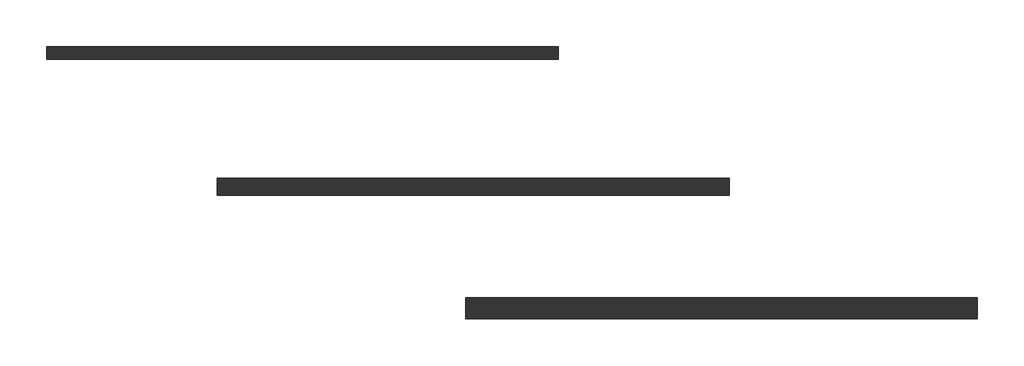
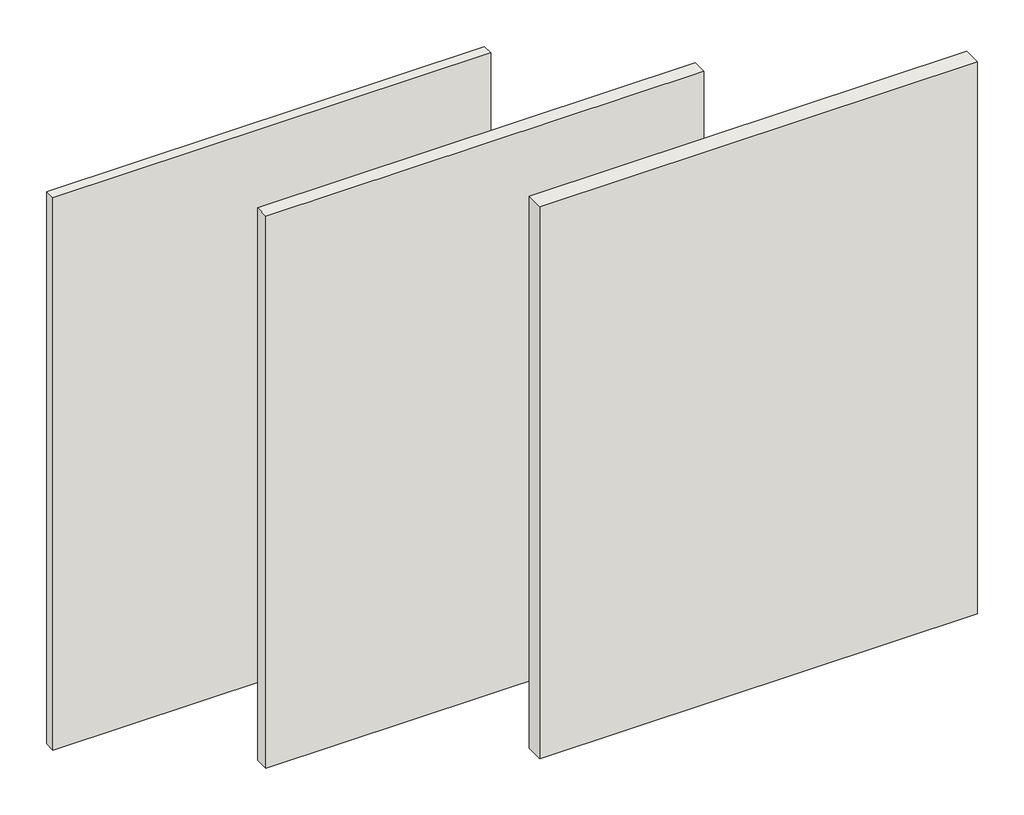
# One storey: 3 walls.
"""IFC4 building model written with IfcOpenShell, lengths in millimetres."""

import ifcopenshell
import ifcopenshell.guid

model = None  # the IFC model being written
_history = None  # IfcOwnerHistory: only IFC2X3 demands one
_inside = {}  # id of a spatial element -> (the spatial element, [elements in it])
_under = {}  # id of a project, library or spatial element -> (it, [spatial elements below it])
_declared = {}  # id of a project -> (the project, [libraries it declares])
_typed = {}  # id of a type object -> (the type object, [elements of that type])
_made_of = {}  # id of a material, layer set ... -> (it, [elements and type objects made of it])


def new_model(schema):
    """Start an empty IFC model of exactly this schema.

    Asked for "IFC4X3", IfcOpenShell would pick the latest addendum, in which some entities
    have other attributes; the version numbers below select the first issue.
    IFC2X3 requires an IfcOwnerHistory on every rooted entity: one is made here for all.
    """
    global model, _history
    if schema == "IFC4X3":
        model = ifcopenshell.file(schema_version=(4, 3, 0, 0))
    else:
        model = ifcopenshell.file(schema=schema)
    _inside.clear()
    _under.clear()
    _declared.clear()
    _typed.clear()
    _made_of.clear()
    _history = None
    if model.schema == "IFC2X3":
        org = make("IfcOrganization", Name="unknown")
        user = make(
            "IfcPersonAndOrganization",
            ThePerson=make("IfcPerson", FamilyName="unknown"),
            TheOrganization=org,
        )
        app = make(
            "IfcApplication",
            ApplicationDeveloper=org,
            Version="unknown",
            ApplicationFullName="unknown",
            ApplicationIdentifier="unknown",
        )
        _history = make(
            "IfcOwnerHistory",
            OwningUser=user,
            OwningApplication=app,
            ChangeAction="ADDED",
            CreationDate=0,
        )
    return model


def make(cls, **values):
    """One entity of the class cls with the attributes given. An attribute that is None is left unset."""
    return model.create_entity(
        cls, **{name: value for name, value in values.items() if value is not None}
    )


def rooted(cls, **values):
    """An entity with a GlobalId (a new one), such as an element, a storey or a relation."""
    return make(cls, GlobalId=ifcopenshell.guid.new(), OwnerHistory=_history, **values)


def si_unit(unit_type, name, prefix=None):
    """IfcSIUnit, for example si_unit("LENGTHUNIT", "METRE", prefix="MILLI")."""
    return make("IfcSIUnit", UnitType=unit_type, Prefix=prefix, Name=name)


def assignment(units):
    """IfcUnitAssignment: the units of a project."""
    return None if units is None else make("IfcUnitAssignment", Units=units)


def point(xyz):
    """IfcCartesianPoint."""
    return None if xyz is None else make("IfcCartesianPoint", Coordinates=xyz)


def direction(xyz):
    """IfcDirection."""
    return None if xyz is None else make("IfcDirection", DirectionRatios=xyz)


def frame(location, z_axis=None, x_axis=None):
    """IfcAxis2Placement3D, a coordinate frame: its origin and axes. An axis left out is left unset."""
    return make(
        "IfcAxis2Placement3D",
        Location=point(location),
        Axis=direction(z_axis),
        RefDirection=direction(x_axis),
    )


def origin():
    """The frame at (0, 0, 0) with its axes left unset."""
    return frame((0.0, 0.0, 0.0))


def origin_with_axes():
    """The frame at (0, 0, 0) with the z axis (0, 0, 1) and the x axis (1, 0, 0) written out."""
    return frame((0.0, 0.0, 0.0), z_axis=(0.0, 0.0, 1.0), x_axis=(1.0, 0.0, 0.0))


def place(relative_to, where):
    """IfcLocalPlacement: puts the frame where relative to a parent placement (None: the world)."""
    return make(
        "IfcLocalPlacement", PlacementRelTo=relative_to, RelativePlacement=where
    )


def context(
    kind, dimensions, precision=None, world=None, true_north=None, identifier=None
):
    """IfcGeometricRepresentationContext, for example the 3D "Model" context."""
    return make(
        "IfcGeometricRepresentationContext",
        ContextIdentifier=identifier,
        ContextType=kind,
        CoordinateSpaceDimension=dimensions,
        Precision=precision,
        WorldCoordinateSystem=world,
        TrueNorth=true_north,
    )


def project(units=None, contexts=None):
    """IfcProject with its units and contexts."""
    return rooted(
        "IfcProject",
        Name="project",
        RepresentationContexts=contexts,
        UnitsInContext=assignment(units),
    )


def spatial(cls, under=None, at=None, **own):
    """A site, building, storey or space (cls), placed at a placement, below another one or the project."""
    s = rooted(cls, ObjectPlacement=at, **own)
    if under is not None:
        _under.setdefault(under.id(), (under, []))[1].append(s)
    return s


def polyline(points):
    """IfcPolyline through the points."""
    return make("IfcPolyline", Points=[point(p) for p in points])


def outline(outer, holes=None, kind="AREA"):
    """IfcArbitraryClosedProfileDef: a profile drawn as a closed curve; with holes, ...WithVoids."""
    if holes is None:
        return make("IfcArbitraryClosedProfileDef", ProfileType=kind, OuterCurve=outer)
    return make(
        "IfcArbitraryProfileDefWithVoids",
        ProfileType=kind,
        OuterCurve=outer,
        InnerCurves=holes,
    )


def extrude(swept, where, along, depth):
    """IfcExtrudedAreaSolid: the profile swept, set in the frame where, extruded along a direction by depth."""
    return make(
        "IfcExtrudedAreaSolid",
        SweptArea=swept,
        Position=where,
        ExtrudedDirection=direction(along),
        Depth=depth,
    )


def shape(context_of_items, identifier, shape_type, items):
    """IfcShapeRepresentation: the items that make up one representation, for example the "Body"."""
    return make(
        "IfcShapeRepresentation",
        ContextOfItems=context_of_items,
        RepresentationIdentifier=identifier,
        RepresentationType=shape_type,
        Items=items,
    )


def made_of(thing, what):
    """Note that an element or type object is made of a material, layer set ...; save() writes the relation."""
    if what is not None:
        _made_of.setdefault(what.id(), (what, []))[1].append(thing)
    return thing


def element(
    cls,
    number,
    at=None,
    inside=None,
    cuts=None,
    type_object=None,
    material=None,
    context=None,
    identifier="Body",
    shape_type=None,
    held_by="IfcProductDefinitionShape",
    body=None,
    shapes=None,
    **own,
):
    """One element of the class cls, such as IfcWall. Its Tag is "e" and its number.

    at: its placement. inside: the storey or other place that contains it. cuts: it is an
    opening in that element (IfcRelVoidsElement). A single representation is given by context,
    identifier, shape_type and body (its items); several are given by shapes. held_by: the class
    of the entity that holds the representations. save() writes the other relations.
    """
    e = rooted(cls, Tag="e%d" % number, ObjectPlacement=at, **own)
    if body is not None:
        shapes = [shape(context, identifier, shape_type, body)]
    if shapes is not None:
        e.Representation = make(held_by, Representations=shapes)
    if inside is not None:
        _inside.setdefault(inside.id(), (inside, []))[1].append(e)
    if cuts is not None:
        rooted(
            "IfcRelVoidsElement", RelatingBuildingElement=cuts, RelatedOpeningElement=e
        )
    if type_object is not None:
        _typed.setdefault(type_object.id(), (type_object, []))[1].append(e)
    return made_of(e, material)


def aggregate(whole, parts):
    """IfcRelAggregates: a whole, such as a stair, and the parts it consists of."""
    return rooted("IfcRelAggregates", RelatingObject=whole, RelatedObjects=parts)


def save(model, path):
    """Write the relations noted so far, then the file.

    IfcRelAggregates (storeys below a building ...), IfcRelContainedInSpatialStructure (elements
    in a storey), IfcRelDefinesByType, IfcRelAssociatesMaterial and IfcRelDeclares: one each for
    every whole, place, type object, material and project.
    """
    for whole, parts in _under.values():
        aggregate(whole, parts)
    for where, things in _inside.values():
        rooted(
            "IfcRelContainedInSpatialStructure",
            RelatedElements=things,
            RelatingStructure=where,
        )
    for kind, things in _typed.values():
        rooted("IfcRelDefinesByType", RelatedObjects=things, RelatingType=kind)
    for what, things in _made_of.values():
        rooted("IfcRelAssociatesMaterial", RelatedObjects=things, RelatingMaterial=what)
    for by, libraries in _declared.values():
        rooted("IfcRelDeclares", RelatingContext=by, RelatedDefinitions=libraries)
    model.write(path)


model = new_model("IFC4")

# Units and contexts
model_context = context("Model", 3, world=origin())
ifc_project = project(units=[si_unit("LENGTHUNIT", "METRE", prefix="MILLI")], contexts=[model_context])

# Site, building, storey
site = spatial("IfcSite", under=ifc_project)
building = spatial("IfcBuilding", under=site)
storey = spatial("IfcBuildingStorey", under=building, Name="Уровень 1", Elevation=0.0)

# Walls
placement = place(None, origin())
element("IfcWall", 1, ObjectType="Облицовка КНАУФ С636 Применение внутри здания ПC50/50 ПН50х40 ГСП-А 12.5 Файерборд 12.5", at=placement, inside=storey, context=model_context, shape_type="SweptSolid", body=[
    extrude(outline(polyline([(2735.2132374, 603.9335554), (-264.7867626, 603.9335554), (-264.7867626, 678.9335554), (2735.2132374, 678.9335554), (2735.2132374, 603.9335554)])), origin_with_axes(), (0.0, 0.0, 1.0), 4000.0),
])
element("IfcWall", 2, ObjectType="Облицовка КНАУФ С636 Применение внутри здания ПC75/50 ПН75х40 ГСП-А 12.5 Файерборд 12.5", at=placement, inside=storey, context=model_context, shape_type="SweptSolid", body=[
    extrude(outline(polyline([(3735.2132374, -192.9152031), (735.2132374, -192.9152031), (735.2132374, -92.9152031), (3735.2132374, -92.9152031), (3735.2132374, -192.9152031)])), origin_with_axes(), (0.0, 0.0, 1.0), 4000.0),
])
element("IfcWall", 3, ObjectType="Облицовка КНАУФ С636 Применение внутри здания ПC100/50 ПН100х40 ГСП-А 12.5 Файерборд 12.5", at=placement, inside=storey, context=model_context, shape_type="SweptSolid", body=[
    extrude(outline(polyline([(5191.3521162, -917.9152031), (2191.3521162, -917.9152031), (2191.3521162, -792.9152031), (5191.3521162, -792.9152031), (5191.3521162, -917.9152031)])), origin_with_axes(), (0.0, 0.0, 1.0), 4000.0),
])

save(model, "model.ifc")
